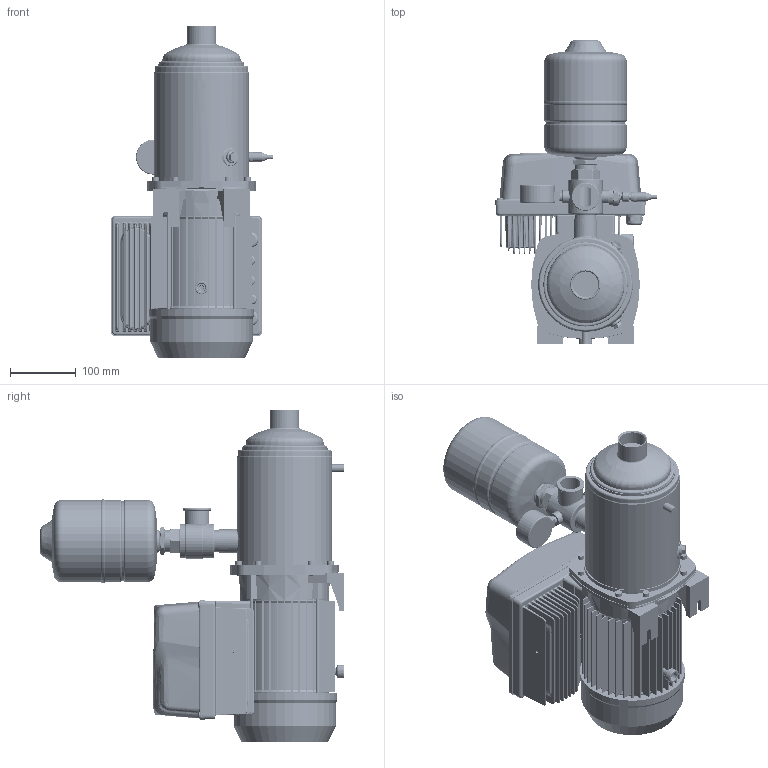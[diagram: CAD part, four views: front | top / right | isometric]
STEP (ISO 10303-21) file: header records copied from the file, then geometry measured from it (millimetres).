
FILE_DESCRIPTION((''),'2;1');
FILE_NAME('1GPE_MATRIX_5-7T_1-5_ESPM_ASM','2024-12-02T15:03:01',('Utente'),('"Ebara Pumps Europe S.p.A"'),'CREO PARAMETRIC BY PTC INC, 2022124','CREO PARAMETRIC BY PTC INC, 2022124','');
FILE_SCHEMA(('AUTOMOTIVE_DESIGN { 1 0 10303 214 1 1 1 1 }'));
Length unit declared in the file: millimetre
Products named in the file (14): EP_MATRIX_5-7T_1-5_IE3; EP_MATRIX_5-7T_1-5_ASM; ADATTATORE_E-SPD_MEC80-90-100; E-SPD_ADATTATORE_MEC80-90-100_ASM; BACK_E-SPD_PLUS_2200-4000; COVER_E-SPD_PLUS_2200-4000; COM_E-SPDM_MEC80-90-100_ORIZ_ASM; RACC_5_VIE_NR_1_A304; TRASD_ASHCROFT_M12_GEN; CABLE_M12_FEMALE; TRASD_ASHCROFT_10B_MP_362331051_ASM; MAN_RAD_D50_10BAR_361600160; VASO_ESPANSIONE_2L_GWS; 1GPE_MATRIX_5-7T_1-5_ESPM_ASM
Assembly tree (13 placements, depth 3):
  1GPE_MATRIX_5-7T_1-5_ESPM_ASM
    EP_MATRIX_5-7T_1-5_ASM
      EP_MATRIX_5-7T_1-5_IE3
    E-SPD_ADATTATORE_MEC80-90-100_ASM
      ADATTATORE_E-SPD_MEC80-90-100
    COM_E-SPDM_MEC80-90-100_ORIZ_ASM
      BACK_E-SPD_PLUS_2200-4000
      COVER_E-SPD_PLUS_2200-4000
    RACC_5_VIE_NR_1_A304
    TRASD_ASHCROFT_10B_MP_362331051_ASM
      TRASD_ASHCROFT_M12_GEN
      CABLE_M12_FEMALE
    MAN_RAD_D50_10BAR_361600160
    VASO_ESPANSIONE_2L_GWS
Bounding box: 246.19 x 461.11 x 503.8 mm (x, y, z)
Volume: 5400014.8 mm3; surface area: 1359278.5 mm2
Topology: 91 solids, 512 shells, 12014 faces, 30526 edges, 18120 vertices
Faces by surface type: plane 6004, cylinder 2632, sphere 1047, bspline 948, cone 482, torus 466, extrusion 435
Entity records: 489026 total; most frequent: CARTESIAN_POINT 173766, ORIENTED_EDGE 56217, DIRECTION 53533, EDGE_CURVE 29049, VERTEX_POINT 18000, VECTOR 17861, AXIS2_PLACEMENT_3D 17817, LINE 17426
